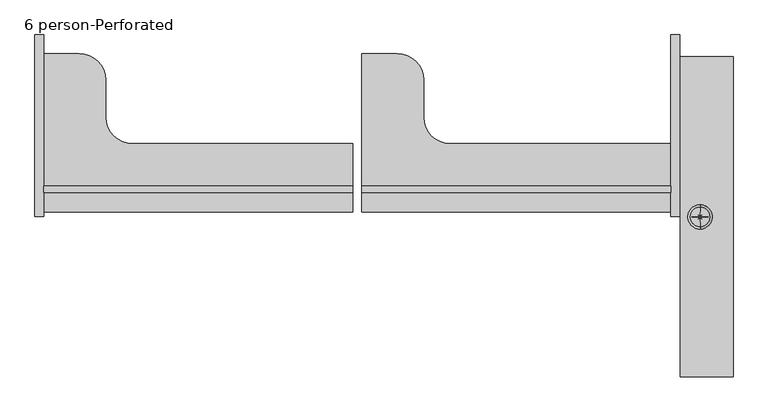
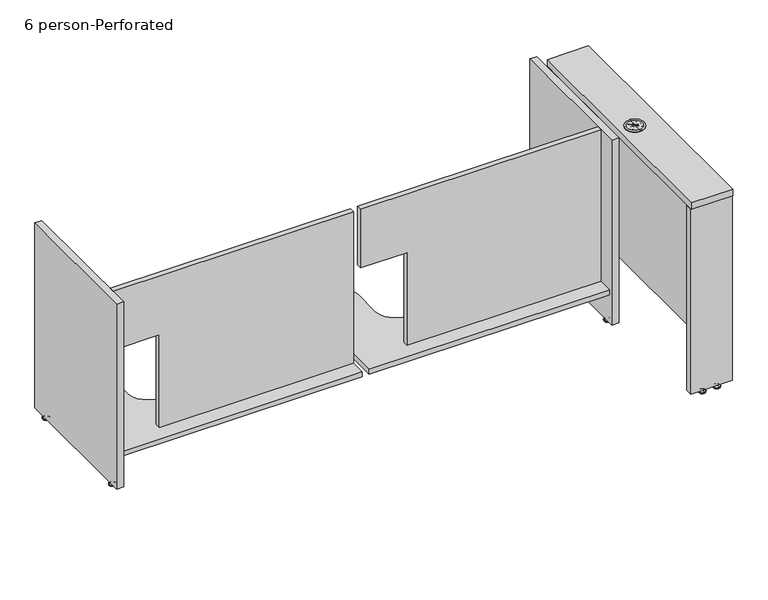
"""IFC4 building model written with IfcOpenShell, lengths in millimetres: furniture geometry, Nova Solutions - Collaboration Table - Keystone_6-7 person : 6 person-Perforated."""

from ifc_helpers import new_model, si_unit, point, frame, frame_2d, origin, place, context, project, spatial, polyline, circle_curve, ellipse_curve, trimmed, segment, composite_curve, outline, extrude, source, transform, mapped, element, save
from ifc_brep_helpers import plane_surface, cylinder_surface, revolved_surface, advanced_brep


def furniture_6_person_perforated_8f2a57f9(model_context):
    return source(origin(), model_context, "Body", "SolidModel", [
        advanced_brep(
        [(1440.9, -34.925, 762.0), (1440.9, 34.925, 762.0), (1440.9, 24.6435157, 762.0), (1439.753542, 2.7677944, 762.0), (1423.4744029, 17.4255971, 762.0), (1438.1322056, 1.146458, 762.0), (1416.2564843, 0.0, 762.0), (1438.1322056, -1.146458, 762.0), (1423.4744029, -17.4255971, 762.0), (1439.753542, -2.7677944, 762.0), (1440.9, -24.6435157, 762.0), (1442.046458, -2.7677944, 762.0), (1458.3255971, -17.4255971, 762.0), (1443.6677944, -1.146458, 762.0), (1465.5435157, 0.0, 762.0), (1443.6677944, 1.146458, 762.0), (1458.3255971, 17.4255971, 762.0), (1442.046458, 2.7677944, 762.0), (1440.9, -34.925, 763.3787817), (1440.9, 34.925, 763.3787817), (1440.9, -28.7119174, 765.175), (1440.9, 28.7119174, 765.175), (1440.9, -24.6435157, 765.175), (1439.753542, -2.7677944, 765.175), (1423.4744029, -17.4255971, 765.175), (1438.1322056, -1.146458, 765.175), (1416.2564843, 0.0, 765.175), (1438.1322056, 1.146458, 765.175), (1423.4744029, 17.4255971, 765.175), (1439.753542, 2.7677944, 765.175), (1440.9, 24.6435157, 765.175), (1442.046458, 2.7677944, 765.175), (1458.3255971, 17.4255971, 765.175), (1443.6677944, 1.146458, 765.175), (1465.5435157, 0.0, 765.175), (1443.6677944, -1.146458, 765.175), (1458.3255971, -17.4255971, 765.175), (1442.046458, -2.7677944, 765.175)],
        [
            (0, 1, circle_curve(frame((1440.9, 0.0, 762.0), z_axis=(0.0, 0.0, -1.0), x_axis=(0.0, 1.0, 0.0)), 34.925)),
            (1, 2),
            (2, 3),
            (3, 4),
            (4, 5),
            (5, 6),
            (6, 7),
            (7, 8),
            (8, 9),
            (9, 10),
            (10, 0),
            (1, 0, circle_curve(frame((1440.9, 0.0, 762.0), z_axis=(0.0, 0.0, -1.0), x_axis=(0.0, 1.0, 0.0)), 34.925)),
            (10, 11),
            (11, 12),
            (12, 13),
            (13, 14),
            (14, 15),
            (15, 16),
            (16, 17),
            (17, 2),
            (0, 18),
            (18, 19, circle_curve(frame((1440.9, 0.0, 763.3787817), z_axis=(0.0, 0.0, -1.0), x_axis=(0.0, 1.0, 0.0)), 34.925)),
            (19, 1),
            (19, 18, circle_curve(frame((1440.9, 0.0, 763.3787817), z_axis=(0.0, 0.0, -1.0), x_axis=(0.0, 1.0, 0.0)), 34.925)),
            (18, 20, circle_curve(frame((1440.9, -31.558813, 763.3787817), z_axis=(-1.0, 0.0, 0.0), x_axis=(0.0, -1.0, 0.0)), 3.366187)),
            (20, 21, circle_curve(frame((1440.9, 0.0, 765.175), z_axis=(0.0, 0.0, -1.0), x_axis=(0.0, 1.0, 0.0)), 28.7119174)),
            (21, 19, circle_curve(frame((1440.9, 31.558813, 763.3787817), z_axis=(-1.0, 0.0, 0.0), x_axis=(0.0, 1.0, 0.0)), 3.366187)),
            (21, 20, circle_curve(frame((1440.9, 0.0, 765.175), z_axis=(0.0, 0.0, -1.0), x_axis=(0.0, 1.0, 0.0)), 28.7119174)),
            (20, 22),
            (22, 23),
            (23, 24),
            (24, 25),
            (25, 26),
            (26, 27),
            (27, 28),
            (28, 29),
            (29, 30),
            (30, 21),
            (30, 31),
            (31, 32),
            (32, 33),
            (33, 34),
            (34, 35),
            (35, 36),
            (36, 37),
            (37, 22),
            (26, 6),
            (5, 27),
            (25, 7),
            (24, 8),
            (23, 9),
            (22, 10),
            (37, 11),
            (36, 12),
            (35, 13),
            (34, 14),
            (33, 15),
            (32, 16),
            (31, 17),
            (30, 2),
            (29, 3),
            (28, 4),
        ],
        [
            plane_surface(frame((1440.9, 0.0, 762.0), z_axis=(0.0, 0.0, -1.0), x_axis=(0.0, 1.0, 0.0))),
            cylinder_surface(frame((1440.9, 0.0, 850.9), z_axis=(0.0, 0.0, 1.0), x_axis=(0.0, 1.0, 0.0)), 34.925),
            revolved_surface(trimmed(ellipse_curve(frame((1440.9, 31.558813, 763.3787817), z_axis=(1.0, 0.0, 0.0), x_axis=(0.0, 1.0, 0.0)), 3.366187, 3.366187), [point((1440.9, 34.925, 763.3787817))], [point((1440.9, 28.7119174, 765.175))], True, "CARTESIAN"), (1440.9, 0.0, 850.9), (0.0, 0.0, 1.0)),
            plane_surface(frame((1440.9, 0.0, 765.175), z_axis=(0.0, 0.0, 1.0), x_axis=(0.0, 1.0, 0.0))),
            plane_surface(frame((1440.9, 1.2915119, 787.4), z_axis=(0.05233595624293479, -0.9986295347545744, 0.0), x_axis=(0.0, 0.0, -1.0))),
            plane_surface(frame((1416.2564843, 0.0, 787.4), z_axis=(0.052335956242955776, 0.9986295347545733, 0.0), x_axis=(0.0, 0.0, -1.0))),
            plane_surface(frame((1439.9867632, 0.9132368, 787.4), z_axis=(0.7431448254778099, -0.6691306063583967, 0.0), x_axis=(0.0, 0.0, -1.0))),
            plane_surface(frame((1423.4744029, -17.4255971, 787.4), z_axis=(-0.6691306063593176, 0.7431448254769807, 0.0), x_axis=(0.0, 0.0, -1.0))),
            plane_surface(frame((1439.6084881, 0.0, 787.4), z_axis=(0.9986295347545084, 0.05233595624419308, 0.0), x_axis=(0.0, 0.0, -1.0))),
            plane_surface(frame((1440.9, -24.6435157, 787.4), z_axis=(-0.9986295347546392, 0.05233595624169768, 0.0), x_axis=(0.0, 0.0, -1.0))),
            plane_surface(frame((1439.9867632, -0.9132368, 787.4), z_axis=(0.6691306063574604, 0.743144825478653, 0.0), x_axis=(0.0, 0.0, -1.0))),
            plane_surface(frame((1458.3255971, -17.4255971, 787.4), z_axis=(-0.7431448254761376, -0.669130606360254, 0.0), x_axis=(0.0, 0.0, -1.0))),
            plane_surface(frame((1440.9, -1.2915119, 787.4), z_axis=(-0.052335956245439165, 0.9986295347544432, 0.0), x_axis=(0.0, 0.0, -1.0))),
            plane_surface(frame((1465.5435157, 0.0, 787.4), z_axis=(-0.05233595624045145, -0.9986295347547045, 0.0), x_axis=(0.0, 0.0, -1.0))),
            plane_surface(frame((1441.8132368, -0.9132368, 787.4), z_axis=(-0.7431448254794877, 0.6691306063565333, 0.0), x_axis=(0.0, 0.0, -1.0))),
            plane_surface(frame((1458.3255971, 17.4255971, 787.4), z_axis=(0.669130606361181, -0.7431448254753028, 0.0), x_axis=(0.0, 0.0, -1.0))),
            plane_surface(frame((1442.1915119, 0.0, 787.4), z_axis=(-0.9986295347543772, -0.05233595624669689, 0.0), x_axis=(0.0, 0.0, -1.0))),
            plane_surface(frame((1440.9, 24.6435157, 787.4), z_axis=(0.9986295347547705, -0.05233595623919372, 0.0), x_axis=(0.0, 0.0, -1.0))),
            plane_surface(frame((1441.8132368, 0.9132368, 787.4), z_axis=(-0.6691306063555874, -0.7431448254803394, 0.0), x_axis=(0.0, 0.0, -1.0))),
            plane_surface(frame((1423.4744029, 17.4255971, 787.4), z_axis=(0.743144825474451, 0.669130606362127, 0.0), x_axis=(0.0, 0.0, -1.0))),
        ],
        [
            (0, [[1, 2, 3, 4, 5, 6, 7, 8, 9, 10, 11]]),
            (0, [[12, -11, 13, 14, 15, 16, 17, 18, 19, 20, -2]]),
            (1, [[-1, 21, 22, 23]]),
            (1, [[-12, -23, 24, -21]]),
            (2, [[-22, 25, 26, 27]]),
            (2, [[-24, -27, 28, -25]]),
            (3, [[-26, 29, 30, 31, 32, 33, 34, 35, 36, 37, 38]]),
            (3, [[-28, -38, 39, 40, 41, 42, 43, 44, 45, 46, -29]]),
            (4, [[47, -6, 48, -34]]),
            (5, [[-47, -33, 49, -7]]),
            (6, [[50, -8, -49, -32]]),
            (7, [[-50, -31, 51, -9]]),
            (8, [[52, -10, -51, -30]]),
            (9, [[-52, -46, 53, -13]]),
            (10, [[54, -14, -53, -45]]),
            (11, [[-54, -44, 55, -15]]),
            (12, [[56, -16, -55, -43]]),
            (13, [[-56, -42, 57, -17]]),
            (14, [[58, -18, -57, -41]]),
            (15, [[-58, -40, 59, -19]]),
            (16, [[60, -20, -59, -39]]),
            (17, [[-60, -37, 61, -3]]),
            (18, [[62, -4, -61, -36]]),
            (19, [[-62, -35, -48, -5]]),
        ],
    ),
        advanced_brep(
        [(1486.8859375, 451.0276506, 11.1125), (1486.8859375, 437.6723494, 11.1125), (1486.8859375, 444.35, 11.1125), (1486.8859375, 451.0276506, 9.525), (1486.8859375, 437.6723494, 9.525), (1486.8859375, 456.2355135, 4.7748687), (1486.8859375, 432.4644865, 4.7748687), (1486.8859375, 457.0966506, 3.989419), (1486.8859375, 431.6033494, 3.989419), (1486.8859375, 457.0966506, 3.175), (1486.8859375, 431.6033494, 3.175), (1486.8859375, 456.2459119, 0.0), (1486.8859375, 432.4540881, 0.0), (1486.8859375, 444.35, 0.0)],
        [
            (0, 1, circle_curve(frame((1486.8859375, 444.35, 11.1125), z_axis=(0.0, 0.0, 1.0), x_axis=(0.0, -1.0, 0.0)), 6.6776506)),
            (1, 2),
            (2, 0),
            (1, 0, circle_curve(frame((1486.8859375, 444.35, 11.1125), z_axis=(0.0, 0.0, 1.0), x_axis=(0.0, -1.0, 0.0)), 6.6776506)),
            (3, 4, circle_curve(frame((1486.8859375, 444.35, 9.525), z_axis=(0.0, 0.0, 1.0), x_axis=(0.0, -1.0, 0.0)), 6.6776506)),
            (4, 1),
            (0, 3),
            (4, 3, circle_curve(frame((1486.8859375, 444.35, 9.525), z_axis=(0.0, 0.0, 1.0), x_axis=(0.0, -1.0, 0.0)), 6.6776506)),
            (5, 6, circle_curve(frame((1486.8859375, 444.35, 4.7748687), z_axis=(0.0, 0.0, 1.0), x_axis=(0.0, -1.0, 0.0)), 11.8855135)),
            (6, 4, circle_curve(frame((1486.8859375, 431.4179373, 11.1521822), z_axis=(1.0, 0.0, 0.0), x_axis=(0.0, 1.0, 0.0)), 6.462615)),
            (3, 5, circle_curve(frame((1486.8859375, 457.2820627, 11.1521822), z_axis=(1.0, 0.0, 0.0), x_axis=(0.0, -1.0, 0.0)), 6.462615)),
            (6, 5, circle_curve(frame((1486.8859375, 444.35, 4.7748687), z_axis=(0.0, 0.0, 1.0), x_axis=(0.0, -1.0, 0.0)), 11.8855135)),
            (7, 8, circle_curve(frame((1486.8859375, 444.35, 3.989419), z_axis=(0.0, 0.0, 1.0), x_axis=(0.0, -1.0, 0.0)), 12.7466506)),
            (8, 6, circle_curve(frame((1486.8859375, 432.6375368, 3.7203591), z_axis=(-1.0, 0.0, 0.0), x_axis=(0.0, 1.0, 0.0)), 1.0686145)),
            (5, 7, circle_curve(frame((1486.8859375, 456.0624632, 3.7203591), z_axis=(-1.0, 0.0, 0.0), x_axis=(0.0, -1.0, 0.0)), 1.0686145)),
            (8, 7, circle_curve(frame((1486.8859375, 444.35, 3.989419), z_axis=(0.0, 0.0, 1.0), x_axis=(0.0, -1.0, 0.0)), 12.7466506)),
            (9, 10, circle_curve(frame((1486.8859375, 444.35, 3.175), z_axis=(0.0, 0.0, 1.0), x_axis=(0.0, -1.0, 0.0)), 12.7466506)),
            (10, 8),
            (7, 9),
            (10, 9, circle_curve(frame((1486.8859375, 444.35, 3.175), z_axis=(0.0, 0.0, 1.0), x_axis=(0.0, -1.0, 0.0)), 12.7466506)),
            (11, 12, circle_curve(frame((1486.8859375, 444.35, 0.0), z_axis=(0.0, 0.0, 1.0), x_axis=(0.0, -1.0, 0.0)), 11.8959119)),
            (12, 10),
            (9, 11),
            (12, 11, circle_curve(frame((1486.8859375, 444.35, 0.0), z_axis=(0.0, 0.0, 1.0), x_axis=(0.0, -1.0, 0.0)), 11.8959119)),
            (13, 12),
            (11, 13),
        ],
        [
            plane_surface(frame((1486.8859375, 444.35, 11.1125), z_axis=(0.0, 0.0, 1.0), x_axis=(0.0, -1.0, 0.0))),
            cylinder_surface(frame((1486.8859375, 444.35, 43.2095994), z_axis=(0.0, 0.0, -1.0), x_axis=(0.0, -1.0, 0.0)), 6.6776506),
            revolved_surface(trimmed(ellipse_curve(frame((1486.8859375, 431.4179373, 11.1521822), z_axis=(-1.0, 0.0, 0.0), x_axis=(0.0, 1.0, 0.0)), 6.462615, 6.462615), [point((1486.8859375, 437.6723494, 9.525))], [point((1486.8859375, 432.4644865, 4.7748687))], True, "CARTESIAN"), (1486.8859375, 444.35, 43.2095994), (0.0, 0.0, -1.0)),
            revolved_surface(trimmed(ellipse_curve(frame((1486.8859375, 432.6375368, 3.7203591), z_axis=(1.0, 0.0, 0.0), x_axis=(0.0, 1.0, 0.0)), 1.0686145, 1.0686145), [point((1486.8859375, 432.4644865, 4.7748687))], [point((1486.8859375, 431.6033494, 3.989419))], True, "CARTESIAN"), (1486.8859375, 444.35, 43.2095994), (0.0, 0.0, -1.0)),
            cylinder_surface(frame((1486.8859375, 444.35, 43.2095994), z_axis=(0.0, 0.0, -1.0), x_axis=(0.0, -1.0, 0.0)), 12.7466506),
            revolved_surface(polyline([(1486.8859375, 431.6033494, 3.175), (1486.8859375, 432.4540881, 0.0)]), (1486.8859375, 444.35, 43.2095994), (0.0, 0.0, -1.0)),
            plane_surface(frame((1486.8859375, 444.35, 0.0), z_axis=(0.0, 0.0, -1.0), x_axis=(0.0, -1.0, 0.0))),
        ],
        [
            (0, [[1, 2, 3]]),
            (0, [[4, -3, -2]]),
            (1, [[5, 6, -1, 7]]),
            (1, [[8, -7, -4, -6]]),
            (2, [[9, 10, -5, 11]]),
            (2, [[12, -11, -8, -10]]),
            (3, [[13, 14, -9, 15]]),
            (3, [[16, -15, -12, -14]]),
            (4, [[17, 18, -13, 19]]),
            (4, [[20, -19, -16, -18]]),
            (5, [[21, 22, -17, 23]]),
            (5, [[24, -23, -20, -22]]),
            (6, [[25, -21, 26]]),
            (6, [[-26, -24, -25]]),
        ],
    ),
        advanced_brep(
        [(1432.5140625, 451.0276506, 11.1125), (1432.5140625, 437.6723494, 11.1125), (1432.5140625, 444.35, 11.1125), (1432.5140625, 451.0276506, 9.525), (1432.5140625, 437.6723494, 9.525), (1432.5140625, 456.2355135, 4.7748687), (1432.5140625, 432.4644865, 4.7748687), (1432.5140625, 457.0966506, 3.989419), (1432.5140625, 431.6033494, 3.989419), (1432.5140625, 457.0966506, 3.175), (1432.5140625, 431.6033494, 3.175), (1432.5140625, 456.2459119, 0.0), (1432.5140625, 432.4540881, 0.0), (1432.5140625, 444.35, 0.0)],
        [
            (0, 1, circle_curve(frame((1432.5140625, 444.35, 11.1125), z_axis=(0.0, 0.0, 1.0), x_axis=(0.0, -1.0, 0.0)), 6.6776506)),
            (1, 2),
            (2, 0),
            (1, 0, circle_curve(frame((1432.5140625, 444.35, 11.1125), z_axis=(0.0, 0.0, 1.0), x_axis=(0.0, -1.0, 0.0)), 6.6776506)),
            (3, 4, circle_curve(frame((1432.5140625, 444.35, 9.525), z_axis=(0.0, 0.0, 1.0), x_axis=(0.0, -1.0, 0.0)), 6.6776506)),
            (4, 1),
            (0, 3),
            (4, 3, circle_curve(frame((1432.5140625, 444.35, 9.525), z_axis=(0.0, 0.0, 1.0), x_axis=(0.0, -1.0, 0.0)), 6.6776506)),
            (5, 6, circle_curve(frame((1432.5140625, 444.35, 4.7748687), z_axis=(0.0, 0.0, 1.0), x_axis=(0.0, -1.0, 0.0)), 11.8855135)),
            (6, 4, circle_curve(frame((1432.5140625, 431.4179373, 11.1521822), z_axis=(1.0, 0.0, 0.0), x_axis=(0.0, 1.0, 0.0)), 6.462615)),
            (3, 5, circle_curve(frame((1432.5140625, 457.2820627, 11.1521822), z_axis=(1.0, 0.0, 0.0), x_axis=(0.0, -1.0, 0.0)), 6.462615)),
            (6, 5, circle_curve(frame((1432.5140625, 444.35, 4.7748687), z_axis=(0.0, 0.0, 1.0), x_axis=(0.0, -1.0, 0.0)), 11.8855135)),
            (7, 8, circle_curve(frame((1432.5140625, 444.35, 3.989419), z_axis=(0.0, 0.0, 1.0), x_axis=(0.0, -1.0, 0.0)), 12.7466506)),
            (8, 6, circle_curve(frame((1432.5140625, 432.6375368, 3.7203591), z_axis=(-1.0, 0.0, 0.0), x_axis=(0.0, 1.0, 0.0)), 1.0686145)),
            (5, 7, circle_curve(frame((1432.5140625, 456.0624632, 3.7203591), z_axis=(-1.0, 0.0, 0.0), x_axis=(0.0, -1.0, 0.0)), 1.0686145)),
            (8, 7, circle_curve(frame((1432.5140625, 444.35, 3.989419), z_axis=(0.0, 0.0, 1.0), x_axis=(0.0, -1.0, 0.0)), 12.7466506)),
            (9, 10, circle_curve(frame((1432.5140625, 444.35, 3.175), z_axis=(0.0, 0.0, 1.0), x_axis=(0.0, -1.0, 0.0)), 12.7466506)),
            (10, 8),
            (7, 9),
            (10, 9, circle_curve(frame((1432.5140625, 444.35, 3.175), z_axis=(0.0, 0.0, 1.0), x_axis=(0.0, -1.0, 0.0)), 12.7466506)),
            (11, 12, circle_curve(frame((1432.5140625, 444.35, 0.0), z_axis=(0.0, 0.0, 1.0), x_axis=(0.0, -1.0, 0.0)), 11.8959119)),
            (12, 10),
            (9, 11),
            (12, 11, circle_curve(frame((1432.5140625, 444.35, 0.0), z_axis=(0.0, 0.0, 1.0), x_axis=(0.0, -1.0, 0.0)), 11.8959119)),
            (13, 12),
            (11, 13),
        ],
        [
            plane_surface(frame((1432.5140625, 444.35, 11.1125), z_axis=(0.0, 0.0, 1.0), x_axis=(0.0, -1.0, 0.0))),
            cylinder_surface(frame((1432.5140625, 444.35, 43.2095994), z_axis=(0.0, 0.0, -1.0), x_axis=(0.0, -1.0, 0.0)), 6.6776506),
            revolved_surface(trimmed(ellipse_curve(frame((1432.5140625, 431.4179373, 11.1521822), z_axis=(-1.0, 0.0, 0.0), x_axis=(0.0, 1.0, 0.0)), 6.462615, 6.462615), [point((1432.5140625, 437.6723494, 9.525))], [point((1432.5140625, 432.4644865, 4.7748687))], True, "CARTESIAN"), (1432.5140625, 444.35, 43.2095994), (0.0, 0.0, -1.0)),
            revolved_surface(trimmed(ellipse_curve(frame((1432.5140625, 432.6375368, 3.7203591), z_axis=(1.0, 0.0, 0.0), x_axis=(0.0, 1.0, 0.0)), 1.0686145, 1.0686145), [point((1432.5140625, 432.4644865, 4.7748687))], [point((1432.5140625, 431.6033494, 3.989419))], True, "CARTESIAN"), (1432.5140625, 444.35, 43.2095994), (0.0, 0.0, -1.0)),
            cylinder_surface(frame((1432.5140625, 444.35, 43.2095994), z_axis=(0.0, 0.0, -1.0), x_axis=(0.0, -1.0, 0.0)), 12.7466506),
            revolved_surface(polyline([(1432.5140625, 431.6033494, 3.175), (1432.5140625, 432.4540881, 0.0)]), (1432.5140625, 444.35, 43.2095994), (0.0, 0.0, -1.0)),
            plane_surface(frame((1432.5140625, 444.35, 0.0), z_axis=(0.0, 0.0, -1.0), x_axis=(0.0, -1.0, 0.0))),
        ],
        [
            (0, [[1, 2, 3]]),
            (0, [[4, -3, -2]]),
            (1, [[5, 6, -1, 7]]),
            (1, [[8, -7, -4, -6]]),
            (2, [[9, 10, -5, 11]]),
            (2, [[12, -11, -8, -10]]),
            (3, [[13, 14, -9, 15]]),
            (3, [[16, -15, -12, -14]]),
            (4, [[17, 18, -13, 19]]),
            (4, [[20, -19, -16, -18]]),
            (5, [[21, 22, -17, 23]]),
            (5, [[24, -23, -20, -22]]),
            (6, [[25, -21, 26]]),
            (6, [[-26, -24, -25]]),
        ],
    ),
        extrude(outline(polyline([(1383.5, 457.2), (1535.9, 457.2), (1535.9, 431.5), (1383.5, 431.5), (1383.5, 457.2)])), frame((0.0, 0.0, 15.6), z_axis=(0.0, 0.0, 1.0), x_axis=(1.0, 0.0, 0.0)), (0.0, 0.0, 1.0), 720.7),
        advanced_brep(
        [(1486.8859375, -451.0276506, 11.1125), (1486.8859375, -444.35, 11.1125), (1486.8859375, -437.6723494, 11.1125), (1486.8859375, -451.0276506, 9.525), (1486.8859375, -437.6723494, 9.525), (1486.8859375, -456.2355135, 4.7748687), (1486.8859375, -432.4644865, 4.7748687), (1486.8859375, -457.0966506, 3.989419), (1486.8859375, -431.6033494, 3.989419), (1486.8859375, -457.0966506, 3.175), (1486.8859375, -431.6033494, 3.175), (1486.8859375, -456.2459119, 0.0), (1486.8859375, -432.4540881, 0.0), (1486.8859375, -444.35, 0.0)],
        [
            (0, 1),
            (1, 2),
            (2, 0, circle_curve(frame((1486.8859375, -444.35, 11.1125), z_axis=(0.0, 0.0, 1.0), x_axis=(0.0, 1.0, 0.0)), 6.6776506)),
            (0, 2, circle_curve(frame((1486.8859375, -444.35, 11.1125), z_axis=(0.0, 0.0, 1.0), x_axis=(0.0, 1.0, 0.0)), 6.6776506)),
            (3, 0),
            (2, 4),
            (4, 3, circle_curve(frame((1486.8859375, -444.35, 9.525), z_axis=(0.0, 0.0, 1.0), x_axis=(0.0, 1.0, 0.0)), 6.6776506)),
            (3, 4, circle_curve(frame((1486.8859375, -444.35, 9.525), z_axis=(0.0, 0.0, 1.0), x_axis=(0.0, 1.0, 0.0)), 6.6776506)),
            (5, 3, circle_curve(frame((1486.8859375, -457.2820627, 11.1521822), z_axis=(1.0, 0.0, 0.0), x_axis=(0.0, 1.0, 0.0)), 6.462615)),
            (4, 6, circle_curve(frame((1486.8859375, -431.4179373, 11.1521822), z_axis=(1.0, 0.0, 0.0), x_axis=(0.0, -1.0, 0.0)), 6.462615)),
            (6, 5, circle_curve(frame((1486.8859375, -444.35, 4.7748687), z_axis=(0.0, 0.0, 1.0), x_axis=(0.0, 1.0, 0.0)), 11.8855135)),
            (5, 6, circle_curve(frame((1486.8859375, -444.35, 4.7748687), z_axis=(0.0, 0.0, 1.0), x_axis=(0.0, 1.0, 0.0)), 11.8855135)),
            (7, 5, circle_curve(frame((1486.8859375, -456.0624632, 3.7203591), z_axis=(-1.0, 0.0, 0.0), x_axis=(0.0, 1.0, 0.0)), 1.0686145)),
            (6, 8, circle_curve(frame((1486.8859375, -432.6375368, 3.7203591), z_axis=(-1.0, 0.0, 0.0), x_axis=(0.0, -1.0, 0.0)), 1.0686145)),
            (8, 7, circle_curve(frame((1486.8859375, -444.35, 3.989419), z_axis=(0.0, 0.0, 1.0), x_axis=(0.0, 1.0, 0.0)), 12.7466506)),
            (7, 8, circle_curve(frame((1486.8859375, -444.35, 3.989419), z_axis=(0.0, 0.0, 1.0), x_axis=(0.0, 1.0, 0.0)), 12.7466506)),
            (9, 7),
            (8, 10),
            (10, 9, circle_curve(frame((1486.8859375, -444.35, 3.175), z_axis=(0.0, 0.0, 1.0), x_axis=(0.0, 1.0, 0.0)), 12.7466506)),
            (9, 10, circle_curve(frame((1486.8859375, -444.35, 3.175), z_axis=(0.0, 0.0, 1.0), x_axis=(0.0, 1.0, 0.0)), 12.7466506)),
            (11, 9),
            (10, 12),
            (12, 11, circle_curve(frame((1486.8859375, -444.35, 0.0), z_axis=(0.0, 0.0, 1.0), x_axis=(0.0, 1.0, 0.0)), 11.8959119)),
            (11, 12, circle_curve(frame((1486.8859375, -444.35, 0.0), z_axis=(0.0, 0.0, 1.0), x_axis=(0.0, 1.0, 0.0)), 11.8959119)),
            (13, 11),
            (12, 13),
        ],
        [
            plane_surface(frame((1486.8859375, -444.35, 11.1125), z_axis=(0.0, 0.0, 1.0), x_axis=(0.0, 1.0, 0.0))),
            cylinder_surface(frame((1486.8859375, -444.35, 43.2095994), z_axis=(0.0, 0.0, -1.0), x_axis=(0.0, 1.0, 0.0)), 6.6776506),
            revolved_surface(trimmed(ellipse_curve(frame((1486.8859375, -431.4179373, 11.1521822), z_axis=(1.0, 0.0, 0.0), x_axis=(0.0, -1.0, 0.0)), 6.462615, 6.462615), [point((1486.8859375, -437.6723494, 9.525))], [point((1486.8859375, -432.4644865, 4.7748687))], True, "CARTESIAN"), (1486.8859375, -444.35, 43.2095994), (0.0, 0.0, -1.0)),
            revolved_surface(trimmed(ellipse_curve(frame((1486.8859375, -432.6375368, 3.7203591), z_axis=(-1.0, 0.0, 0.0), x_axis=(0.0, -1.0, 0.0)), 1.0686145, 1.0686145), [point((1486.8859375, -432.4644865, 4.7748687))], [point((1486.8859375, -431.6033494, 3.989419))], True, "CARTESIAN"), (1486.8859375, -444.35, 43.2095994), (0.0, 0.0, -1.0)),
            cylinder_surface(frame((1486.8859375, -444.35, 43.2095994), z_axis=(0.0, 0.0, -1.0), x_axis=(0.0, 1.0, 0.0)), 12.7466506),
            revolved_surface(polyline([(1486.8859375, -431.6033494, 3.175), (1486.8859375, -432.4540881, 0.0)]), (1486.8859375, -444.35, 43.2095994), (0.0, 0.0, -1.0)),
            plane_surface(frame((1486.8859375, -444.35, 0.0), z_axis=(0.0, 0.0, -1.0), x_axis=(0.0, 1.0, 0.0))),
        ],
        [
            (0, [[1, 2, 3]]),
            (0, [[-2, -1, 4]]),
            (1, [[5, -3, 6, 7]]),
            (1, [[-6, -4, -5, 8]]),
            (2, [[9, -7, 10, 11]]),
            (2, [[-10, -8, -9, 12]]),
            (3, [[13, -11, 14, 15]]),
            (3, [[-14, -12, -13, 16]]),
            (4, [[17, -15, 18, 19]]),
            (4, [[-18, -16, -17, 20]]),
            (5, [[21, -19, 22, 23]]),
            (5, [[-22, -20, -21, 24]]),
            (6, [[25, -23, 26]]),
            (6, [[-26, -24, -25]]),
        ],
    ),
        advanced_brep(
        [(1432.5140625, -451.0276506, 11.1125), (1432.5140625, -444.35, 11.1125), (1432.5140625, -437.6723494, 11.1125), (1432.5140625, -451.0276506, 9.525), (1432.5140625, -437.6723494, 9.525), (1432.5140625, -456.2355135, 4.7748687), (1432.5140625, -432.4644865, 4.7748687), (1432.5140625, -457.0966506, 3.989419), (1432.5140625, -431.6033494, 3.989419), (1432.5140625, -457.0966506, 3.175), (1432.5140625, -431.6033494, 3.175), (1432.5140625, -456.2459119, 0.0), (1432.5140625, -432.4540881, 0.0), (1432.5140625, -444.35, 0.0)],
        [
            (0, 1),
            (1, 2),
            (2, 0, circle_curve(frame((1432.5140625, -444.35, 11.1125), z_axis=(0.0, 0.0, 1.0), x_axis=(0.0, 1.0, 0.0)), 6.6776506)),
            (0, 2, circle_curve(frame((1432.5140625, -444.35, 11.1125), z_axis=(0.0, 0.0, 1.0), x_axis=(0.0, 1.0, 0.0)), 6.6776506)),
            (3, 0),
            (2, 4),
            (4, 3, circle_curve(frame((1432.5140625, -444.35, 9.525), z_axis=(0.0, 0.0, 1.0), x_axis=(0.0, 1.0, 0.0)), 6.6776506)),
            (3, 4, circle_curve(frame((1432.5140625, -444.35, 9.525), z_axis=(0.0, 0.0, 1.0), x_axis=(0.0, 1.0, 0.0)), 6.6776506)),
            (5, 3, circle_curve(frame((1432.5140625, -457.2820627, 11.1521822), z_axis=(1.0, 0.0, 0.0), x_axis=(0.0, 1.0, 0.0)), 6.462615)),
            (4, 6, circle_curve(frame((1432.5140625, -431.4179373, 11.1521822), z_axis=(1.0, 0.0, 0.0), x_axis=(0.0, -1.0, 0.0)), 6.462615)),
            (6, 5, circle_curve(frame((1432.5140625, -444.35, 4.7748687), z_axis=(0.0, 0.0, 1.0), x_axis=(0.0, 1.0, 0.0)), 11.8855135)),
            (5, 6, circle_curve(frame((1432.5140625, -444.35, 4.7748687), z_axis=(0.0, 0.0, 1.0), x_axis=(0.0, 1.0, 0.0)), 11.8855135)),
            (7, 5, circle_curve(frame((1432.5140625, -456.0624632, 3.7203591), z_axis=(-1.0, 0.0, 0.0), x_axis=(0.0, 1.0, 0.0)), 1.0686145)),
            (6, 8, circle_curve(frame((1432.5140625, -432.6375368, 3.7203591), z_axis=(-1.0, 0.0, 0.0), x_axis=(0.0, -1.0, 0.0)), 1.0686145)),
            (8, 7, circle_curve(frame((1432.5140625, -444.35, 3.989419), z_axis=(0.0, 0.0, 1.0), x_axis=(0.0, 1.0, 0.0)), 12.7466506)),
            (7, 8, circle_curve(frame((1432.5140625, -444.35, 3.989419), z_axis=(0.0, 0.0, 1.0), x_axis=(0.0, 1.0, 0.0)), 12.7466506)),
            (9, 7),
            (8, 10),
            (10, 9, circle_curve(frame((1432.5140625, -444.35, 3.175), z_axis=(0.0, 0.0, 1.0), x_axis=(0.0, 1.0, 0.0)), 12.7466506)),
            (9, 10, circle_curve(frame((1432.5140625, -444.35, 3.175), z_axis=(0.0, 0.0, 1.0), x_axis=(0.0, 1.0, 0.0)), 12.7466506)),
            (11, 9),
            (10, 12),
            (12, 11, circle_curve(frame((1432.5140625, -444.35, 0.0), z_axis=(0.0, 0.0, 1.0), x_axis=(0.0, 1.0, 0.0)), 11.8959119)),
            (11, 12, circle_curve(frame((1432.5140625, -444.35, 0.0), z_axis=(0.0, 0.0, 1.0), x_axis=(0.0, 1.0, 0.0)), 11.8959119)),
            (13, 11),
            (12, 13),
        ],
        [
            plane_surface(frame((1432.5140625, -444.35, 11.1125), z_axis=(0.0, 0.0, 1.0), x_axis=(0.0, 1.0, 0.0))),
            cylinder_surface(frame((1432.5140625, -444.35, 43.2095994), z_axis=(0.0, 0.0, -1.0), x_axis=(0.0, 1.0, 0.0)), 6.6776506),
            revolved_surface(trimmed(ellipse_curve(frame((1432.5140625, -431.4179373, 11.1521822), z_axis=(1.0, 0.0, 0.0), x_axis=(0.0, -1.0, 0.0)), 6.462615, 6.462615), [point((1432.5140625, -437.6723494, 9.525))], [point((1432.5140625, -432.4644865, 4.7748687))], True, "CARTESIAN"), (1432.5140625, -444.35, 43.2095994), (0.0, 0.0, -1.0)),
            revolved_surface(trimmed(ellipse_curve(frame((1432.5140625, -432.6375368, 3.7203591), z_axis=(-1.0, 0.0, 0.0), x_axis=(0.0, -1.0, 0.0)), 1.0686145, 1.0686145), [point((1432.5140625, -432.4644865, 4.7748687))], [point((1432.5140625, -431.6033494, 3.989419))], True, "CARTESIAN"), (1432.5140625, -444.35, 43.2095994), (0.0, 0.0, -1.0)),
            cylinder_surface(frame((1432.5140625, -444.35, 43.2095994), z_axis=(0.0, 0.0, -1.0), x_axis=(0.0, 1.0, 0.0)), 12.7466506),
            revolved_surface(polyline([(1432.5140625, -431.6033494, 3.175), (1432.5140625, -432.4540881, 0.0)]), (1432.5140625, -444.35, 43.2095994), (0.0, 0.0, -1.0)),
            plane_surface(frame((1432.5140625, -444.35, 0.0), z_axis=(0.0, 0.0, -1.0), x_axis=(0.0, 1.0, 0.0))),
        ],
        [
            (0, [[1, 2, 3]]),
            (0, [[-2, -1, 4]]),
            (1, [[5, -3, 6, 7]]),
            (1, [[-6, -4, -5, 8]]),
            (2, [[9, -7, 10, 11]]),
            (2, [[-10, -8, -9, 12]]),
            (3, [[13, -11, 14, 15]]),
            (3, [[-14, -12, -13, 16]]),
            (4, [[17, -15, 18, 19]]),
            (4, [[-18, -16, -17, 20]]),
            (5, [[21, -19, 22, 23]]),
            (5, [[-22, -20, -21, 24]]),
            (6, [[25, -23, 26]]),
            (6, [[-26, -24, -25]]),
        ],
    ),
        extrude(outline(polyline([(1383.5, -457.2), (1383.5, -431.5), (1535.9, -431.5), (1535.9, -457.2), (1383.5, -457.2)])), frame((0.0, 0.0, 15.6), z_axis=(0.0, 0.0, 1.0), x_axis=(1.0, 0.0, 0.0)), (0.0, 0.0, 1.0), 720.7),
        extrude(outline(polyline([(1535.32, -431.0), (1516.27, -431.0), (1516.27, 431.0), (1535.32, 431.0), (1535.32, -431.0)])), frame((0.0, 0.0, 85.615), z_axis=(0.0, 0.0, 1.0), x_axis=(1.0, 0.0, 0.0)), (0.0, 0.0, 1.0), 625.285),
        extrude(outline(polyline([(1535.9, 460.1), (1535.9, -460.1), (1383.5, -460.1), (1383.5, 460.1), (1535.9, 460.1)])), frame((0.0, 0.0, 736.3), z_axis=(0.0, 0.0, 1.0), x_axis=(1.0, 0.0, 0.0)), (0.0, 0.0, 1.0), 25.7),
        extrude(outline(polyline([(145.5, 1356.4), (736.3, 1356.4), (736.3, 469.3), (507.4, 469.3), (507.4, 640.3), (145.5, 640.3), (145.5, 1356.4)])), frame((0.0, 69.345, 0.0), z_axis=(0.0, 1.0, 0.0), x_axis=(0.0, 0.0, 1.0)), (0.0, 0.0, 1.0), 19.2),
        extrude(outline(composite_curve([segment(polyline([(1356.4, 14.045), (469.3, 14.045), (469.3, 469.9075), (570.9, 469.9075)]), True, "CONTINUOUS"), segment(trimmed(circle_curve(frame_2d((570.9, 393.7075)), 76.2), [point((570.9, 469.9075))], [point((647.1, 393.7075))], False, "CARTESIAN"), True, "CONTINUOUS"), segment(polyline([(647.1, 393.7075), (647.1, 286.545)]), True, "CONTINUOUS"), segment(trimmed(circle_curve(frame_2d((723.3, 286.545)), 76.2), [point((647.1, 286.545))], [point((723.3, 210.345))], True, "CARTESIAN"), True, "CONTINUOUS"), segment(polyline([(723.3, 210.345), (1356.4, 210.345), (1356.4, 14.045)]), True, "CONTINUOUS")], self_intersect=False)), frame((0.0, 0.0, 126.3), z_axis=(0.0, 0.0, 1.0), x_axis=(1.0, 0.0, 0.0)), (0.0, 0.0, 1.0), 19.2),
        advanced_brep(
        [(1375.9276506, 474.3309375, 11.1125), (1369.25, 474.3309375, 11.1125), (1362.5723494, 474.3309375, 11.1125), (1375.9276506, 474.3309375, 9.525), (1362.5723494, 474.3309375, 9.525), (1381.1355135, 474.3309375, 4.7748687), (1357.3644865, 474.3309375, 4.7748687), (1381.9966506, 474.3309375, 3.989419), (1356.5033494, 474.3309375, 3.989419), (1381.9966506, 474.3309375, 3.175), (1356.5033494, 474.3309375, 3.175), (1381.1459119, 474.3309375, 0.0), (1357.3540881, 474.3309375, 0.0), (1369.25, 474.3309375, 0.0)],
        [
            (0, 1),
            (1, 2),
            (2, 0, circle_curve(frame((1369.25, 474.3309375, 11.1125), z_axis=(0.0, 0.0, 1.0), x_axis=(-1.0, 0.0, 0.0)), 6.6776506)),
            (0, 2, circle_curve(frame((1369.25, 474.3309375, 11.1125), z_axis=(0.0, 0.0, 1.0), x_axis=(-1.0, 0.0, 0.0)), 6.6776506)),
            (3, 0),
            (2, 4),
            (4, 3, circle_curve(frame((1369.25, 474.3309375, 9.525), z_axis=(0.0, 0.0, 1.0), x_axis=(-1.0, 0.0, 0.0)), 6.6776506)),
            (3, 4, circle_curve(frame((1369.25, 474.3309375, 9.525), z_axis=(0.0, 0.0, 1.0), x_axis=(-1.0, 0.0, 0.0)), 6.6776506)),
            (5, 3, circle_curve(frame((1382.1820627, 474.3309375, 11.1521822), z_axis=(0.0, 1.0, 0.0), x_axis=(-1.0, 0.0, 0.0)), 6.462615)),
            (4, 6, circle_curve(frame((1356.3179373, 474.3309375, 11.1521822), z_axis=(0.0, 1.0, 0.0), x_axis=(1.0, 0.0, 0.0)), 6.462615)),
            (6, 5, circle_curve(frame((1369.25, 474.3309375, 4.7748687), z_axis=(0.0, 0.0, 1.0), x_axis=(-1.0, 0.0, 0.0)), 11.8855135)),
            (5, 6, circle_curve(frame((1369.25, 474.3309375, 4.7748687), z_axis=(0.0, 0.0, 1.0), x_axis=(-1.0, 0.0, 0.0)), 11.8855135)),
            (7, 5, circle_curve(frame((1380.9624632, 474.3309375, 3.7203591), z_axis=(0.0, -1.0, 0.0), x_axis=(-1.0, 0.0, 0.0)), 1.0686145)),
            (6, 8, circle_curve(frame((1357.5375368, 474.3309375, 3.7203591), z_axis=(0.0, -1.0, 0.0), x_axis=(1.0, 0.0, 0.0)), 1.0686145)),
            (8, 7, circle_curve(frame((1369.25, 474.3309375, 3.989419), z_axis=(0.0, 0.0, 1.0), x_axis=(-1.0, 0.0, 0.0)), 12.7466506)),
            (7, 8, circle_curve(frame((1369.25, 474.3309375, 3.989419), z_axis=(0.0, 0.0, 1.0), x_axis=(-1.0, 0.0, 0.0)), 12.7466506)),
            (9, 7),
            (8, 10),
            (10, 9, circle_curve(frame((1369.25, 474.3309375, 3.175), z_axis=(0.0, 0.0, 1.0), x_axis=(-1.0, 0.0, 0.0)), 12.7466506)),
            (9, 10, circle_curve(frame((1369.25, 474.3309375, 3.175), z_axis=(0.0, 0.0, 1.0), x_axis=(-1.0, 0.0, 0.0)), 12.7466506)),
            (11, 9),
            (10, 12),
            (12, 11, circle_curve(frame((1369.25, 474.3309375, 0.0), z_axis=(0.0, 0.0, 1.0), x_axis=(-1.0, 0.0, 0.0)), 11.8959119)),
            (11, 12, circle_curve(frame((1369.25, 474.3309375, 0.0), z_axis=(0.0, 0.0, 1.0), x_axis=(-1.0, 0.0, 0.0)), 11.8959119)),
            (13, 11),
            (12, 13),
        ],
        [
            plane_surface(frame((1369.25, 474.3309375, 11.1125), z_axis=(0.0, 0.0, 1.0), x_axis=(-1.0, 0.0, 0.0))),
            cylinder_surface(frame((1369.25, 474.3309375, 43.2095994), z_axis=(0.0, 0.0, -1.0), x_axis=(-1.0, 0.0, 0.0)), 6.6776506),
            revolved_surface(trimmed(ellipse_curve(frame((1356.3179373, 474.3309375, 11.1521822), z_axis=(0.0, 1.0, 0.0), x_axis=(1.0, 0.0, 0.0)), 6.462615, 6.462615), [point((1362.5723494, 474.3309375, 9.525))], [point((1357.3644865, 474.3309375, 4.7748687))], True, "CARTESIAN"), (1369.25, 474.3309375, 43.2095994), (0.0, 0.0, -1.0)),
            revolved_surface(trimmed(ellipse_curve(frame((1357.5375368, 474.3309375, 3.7203591), z_axis=(0.0, -1.0, 0.0), x_axis=(1.0, 0.0, 0.0)), 1.0686145, 1.0686145), [point((1357.3644865, 474.3309375, 4.7748687))], [point((1356.5033494, 474.3309375, 3.989419))], True, "CARTESIAN"), (1369.25, 474.3309375, 43.2095994), (0.0, 0.0, -1.0)),
            cylinder_surface(frame((1369.25, 474.3309375, 43.2095994), z_axis=(0.0, 0.0, -1.0), x_axis=(-1.0, 0.0, 0.0)), 12.7466506),
            revolved_surface(polyline([(1356.5033494, 474.3309375, 3.175), (1357.3540881, 474.3309375, 0.0)]), (1369.25, 474.3309375, 43.2095994), (0.0, 0.0, -1.0)),
            plane_surface(frame((1369.25, 474.3309375, 0.0), z_axis=(0.0, 0.0, -1.0), x_axis=(-1.0, 0.0, 0.0))),
        ],
        [
            (0, [[1, 2, 3]]),
            (0, [[-2, -1, 4]]),
            (1, [[5, -3, 6, 7]]),
            (1, [[-6, -4, -5, 8]]),
            (2, [[9, -7, 10, 11]]),
            (2, [[-10, -8, -9, 12]]),
            (3, [[13, -11, 14, 15]]),
            (3, [[-14, -12, -13, 16]]),
            (4, [[17, -15, 18, 19]]),
            (4, [[-18, -16, -17, 20]]),
            (5, [[21, -19, 22, 23]]),
            (5, [[-22, -20, -21, 24]]),
            (6, [[25, -23, 26]]),
            (6, [[-26, -24, -25]]),
        ],
    ),
        advanced_brep(
        [(1375.9276506, 50.3590625, 11.1125), (1369.25, 50.3590625, 11.1125), (1362.5723494, 50.3590625, 11.1125), (1375.9276506, 50.3590625, 9.525), (1362.5723494, 50.3590625, 9.525), (1381.1355135, 50.3590625, 4.7748687), (1357.3644865, 50.3590625, 4.7748687), (1381.9966506, 50.3590625, 3.989419), (1356.5033494, 50.3590625, 3.989419), (1381.9966506, 50.3590625, 3.175), (1356.5033494, 50.3590625, 3.175), (1381.1459119, 50.3590625, 0.0), (1357.3540881, 50.3590625, 0.0), (1369.25, 50.3590625, 0.0)],
        [
            (0, 1),
            (1, 2),
            (2, 0, circle_curve(frame((1369.25, 50.3590625, 11.1125), z_axis=(0.0, 0.0, 1.0), x_axis=(-1.0, 0.0, 0.0)), 6.6776506)),
            (0, 2, circle_curve(frame((1369.25, 50.3590625, 11.1125), z_axis=(0.0, 0.0, 1.0), x_axis=(-1.0, 0.0, 0.0)), 6.6776506)),
            (3, 0),
            (2, 4),
            (4, 3, circle_curve(frame((1369.25, 50.3590625, 9.525), z_axis=(0.0, 0.0, 1.0), x_axis=(-1.0, 0.0, 0.0)), 6.6776506)),
            (3, 4, circle_curve(frame((1369.25, 50.3590625, 9.525), z_axis=(0.0, 0.0, 1.0), x_axis=(-1.0, 0.0, 0.0)), 6.6776506)),
            (5, 3, circle_curve(frame((1382.1820627, 50.3590625, 11.1521822), z_axis=(0.0, 1.0, 0.0), x_axis=(-1.0, 0.0, 0.0)), 6.462615)),
            (4, 6, circle_curve(frame((1356.3179373, 50.3590625, 11.1521822), z_axis=(0.0, 1.0, 0.0), x_axis=(1.0, 0.0, 0.0)), 6.462615)),
            (6, 5, circle_curve(frame((1369.25, 50.3590625, 4.7748687), z_axis=(0.0, 0.0, 1.0), x_axis=(-1.0, 0.0, 0.0)), 11.8855135)),
            (5, 6, circle_curve(frame((1369.25, 50.3590625, 4.7748687), z_axis=(0.0, 0.0, 1.0), x_axis=(-1.0, 0.0, 0.0)), 11.8855135)),
            (7, 5, circle_curve(frame((1380.9624632, 50.3590625, 3.7203591), z_axis=(0.0, -1.0, 0.0), x_axis=(-1.0, 0.0, 0.0)), 1.0686145)),
            (6, 8, circle_curve(frame((1357.5375368, 50.3590625, 3.7203591), z_axis=(0.0, -1.0, 0.0), x_axis=(1.0, 0.0, 0.0)), 1.0686145)),
            (8, 7, circle_curve(frame((1369.25, 50.3590625, 3.989419), z_axis=(0.0, 0.0, 1.0), x_axis=(-1.0, 0.0, 0.0)), 12.7466506)),
            (7, 8, circle_curve(frame((1369.25, 50.3590625, 3.989419), z_axis=(0.0, 0.0, 1.0), x_axis=(-1.0, 0.0, 0.0)), 12.7466506)),
            (9, 7),
            (8, 10),
            (10, 9, circle_curve(frame((1369.25, 50.3590625, 3.175), z_axis=(0.0, 0.0, 1.0), x_axis=(-1.0, 0.0, 0.0)), 12.7466506)),
            (9, 10, circle_curve(frame((1369.25, 50.3590625, 3.175), z_axis=(0.0, 0.0, 1.0), x_axis=(-1.0, 0.0, 0.0)), 12.7466506)),
            (11, 9),
            (10, 12),
            (12, 11, circle_curve(frame((1369.25, 50.3590625, 0.0), z_axis=(0.0, 0.0, 1.0), x_axis=(-1.0, 0.0, 0.0)), 11.8959119)),
            (11, 12, circle_curve(frame((1369.25, 50.3590625, 0.0), z_axis=(0.0, 0.0, 1.0), x_axis=(-1.0, 0.0, 0.0)), 11.8959119)),
            (13, 11),
            (12, 13),
        ],
        [
            plane_surface(frame((1369.25, 50.3590625, 11.1125), z_axis=(0.0, 0.0, 1.0), x_axis=(-1.0, 0.0, 0.0))),
            cylinder_surface(frame((1369.25, 50.3590625, 43.2095994), z_axis=(0.0, 0.0, -1.0), x_axis=(-1.0, 0.0, 0.0)), 6.6776506),
            revolved_surface(trimmed(ellipse_curve(frame((1356.3179373, 50.3590625, 11.1521822), z_axis=(0.0, 1.0, 0.0), x_axis=(1.0, 0.0, 0.0)), 6.462615, 6.462615), [point((1362.5723494, 50.3590625, 9.525))], [point((1357.3644865, 50.3590625, 4.7748687))], True, "CARTESIAN"), (1369.25, 50.3590625, 43.2095994), (0.0, 0.0, -1.0)),
            revolved_surface(trimmed(ellipse_curve(frame((1357.5375368, 50.3590625, 3.7203591), z_axis=(0.0, -1.0, 0.0), x_axis=(1.0, 0.0, 0.0)), 1.0686145, 1.0686145), [point((1357.3644865, 50.3590625, 4.7748687))], [point((1356.5033494, 50.3590625, 3.989419))], True, "CARTESIAN"), (1369.25, 50.3590625, 43.2095994), (0.0, 0.0, -1.0)),
            cylinder_surface(frame((1369.25, 50.3590625, 43.2095994), z_axis=(0.0, 0.0, -1.0), x_axis=(-1.0, 0.0, 0.0)), 12.7466506),
            revolved_surface(polyline([(1356.5033494, 50.3590625, 3.175), (1357.3540881, 50.3590625, 0.0)]), (1369.25, 50.3590625, 43.2095994), (0.0, 0.0, -1.0)),
            plane_surface(frame((1369.25, 50.3590625, 0.0), z_axis=(0.0, 0.0, -1.0), x_axis=(-1.0, 0.0, 0.0))),
        ],
        [
            (0, [[1, 2, 3]]),
            (0, [[-2, -1, 4]]),
            (1, [[5, -3, 6, 7]]),
            (1, [[-6, -4, -5, 8]]),
            (2, [[9, -7, 10, 11]]),
            (2, [[-10, -8, -9, 12]]),
            (3, [[13, -11, 14, 15]]),
            (3, [[-14, -12, -13, 16]]),
            (4, [[17, -15, 18, 19]]),
            (4, [[-18, -16, -17, 20]]),
            (5, [[21, -19, 22, 23]]),
            (5, [[-22, -20, -21, 24]]),
            (6, [[25, -23, 26]]),
            (6, [[-26, -24, -25]]),
        ],
    ),
        extrude(outline(polyline([(1382.1, 1.345), (1356.4, 1.345), (1356.4, 523.345), (1382.1, 523.345), (1382.1, 1.345)])), frame((0.0, 0.0, 15.6), z_axis=(0.0, 0.0, 1.0), x_axis=(1.0, 0.0, 0.0)), (0.0, 0.0, 1.0), 720.7),
        extrude(outline(polyline([(736.3, 443.6), (736.3, -443.6), (507.4, -443.6), (507.4, -272.6), (145.5, -272.6), (145.5, 443.6), (736.3, 443.6)])), frame((0.0, 69.345, 0.0), z_axis=(0.0, 1.0, 0.0), x_axis=(0.0, 0.0, 1.0)), (0.0, 0.0, 1.0), 19.2),
        extrude(outline(composite_curve([segment(polyline([(-443.6, 469.9075), (-342.0, 469.9075)]), True, "CONTINUOUS"), segment(trimmed(circle_curve(frame_2d((-342.0, 393.7075)), 76.2), [point((-342.0, 469.9075))], [point((-265.8, 393.7075))], False, "CARTESIAN"), True, "CONTINUOUS"), segment(polyline([(-265.8, 393.7075), (-265.8, 286.545)]), True, "CONTINUOUS"), segment(trimmed(circle_curve(frame_2d((-189.6, 286.545)), 76.2), [point((-265.8, 286.545))], [point((-189.6, 210.345))], True, "CARTESIAN"), True, "CONTINUOUS"), segment(polyline([(-189.6, 210.345), (443.6, 210.345), (443.6, 14.045), (-443.6, 14.045), (-443.6, 469.9075)]), True, "CONTINUOUS")], self_intersect=False)), frame((0.0, 0.0, 126.3), z_axis=(0.0, 0.0, 1.0), x_axis=(1.0, 0.0, 0.0)), (0.0, 0.0, 1.0), 19.2),
        advanced_brep(
        [(-463.1276506, 474.3309375, 11.1125), (-449.7723494, 474.3309375, 11.1125), (-456.45, 474.3309375, 11.1125), (-463.1276506, 474.3309375, 9.525), (-449.7723494, 474.3309375, 9.525), (-468.3355135, 474.3309375, 4.7748687), (-444.5644865, 474.3309375, 4.7748687), (-469.1966506, 474.3309375, 3.989419), (-443.7033494, 474.3309375, 3.989419), (-469.1966506, 474.3309375, 3.175), (-443.7033494, 474.3309375, 3.175), (-468.3459119, 474.3309375, 0.0), (-444.5540881, 474.3309375, 0.0), (-456.45, 474.3309375, 0.0)],
        [
            (0, 1, circle_curve(frame((-456.45, 474.3309375, 11.1125), z_axis=(0.0, 0.0, 1.0), x_axis=(1.0, 0.0, 0.0)), 6.6776506)),
            (1, 2),
            (2, 0),
            (1, 0, circle_curve(frame((-456.45, 474.3309375, 11.1125), z_axis=(0.0, 0.0, 1.0), x_axis=(1.0, 0.0, 0.0)), 6.6776506)),
            (3, 4, circle_curve(frame((-456.45, 474.3309375, 9.525), z_axis=(0.0, 0.0, 1.0), x_axis=(1.0, 0.0, 0.0)), 6.6776506)),
            (4, 1),
            (0, 3),
            (4, 3, circle_curve(frame((-456.45, 474.3309375, 9.525), z_axis=(0.0, 0.0, 1.0), x_axis=(1.0, 0.0, 0.0)), 6.6776506)),
            (5, 6, circle_curve(frame((-456.45, 474.3309375, 4.7748687), z_axis=(0.0, 0.0, 1.0), x_axis=(1.0, 0.0, 0.0)), 11.8855135)),
            (6, 4, circle_curve(frame((-443.5179373, 474.3309375, 11.1521822), z_axis=(0.0, 1.0, 0.0), x_axis=(-1.0, 0.0, 0.0)), 6.462615)),
            (3, 5, circle_curve(frame((-469.3820627, 474.3309375, 11.1521822), z_axis=(0.0, 1.0, 0.0), x_axis=(1.0, 0.0, 0.0)), 6.462615)),
            (6, 5, circle_curve(frame((-456.45, 474.3309375, 4.7748687), z_axis=(0.0, 0.0, 1.0), x_axis=(1.0, 0.0, 0.0)), 11.8855135)),
            (7, 8, circle_curve(frame((-456.45, 474.3309375, 3.989419), z_axis=(0.0, 0.0, 1.0), x_axis=(1.0, 0.0, 0.0)), 12.7466506)),
            (8, 6, circle_curve(frame((-444.7375368, 474.3309375, 3.7203591), z_axis=(0.0, -1.0, 0.0), x_axis=(-1.0, 0.0, 0.0)), 1.0686145)),
            (5, 7, circle_curve(frame((-468.1624632, 474.3309375, 3.7203591), z_axis=(0.0, -1.0, 0.0), x_axis=(1.0, 0.0, 0.0)), 1.0686145)),
            (8, 7, circle_curve(frame((-456.45, 474.3309375, 3.989419), z_axis=(0.0, 0.0, 1.0), x_axis=(1.0, 0.0, 0.0)), 12.7466506)),
            (9, 10, circle_curve(frame((-456.45, 474.3309375, 3.175), z_axis=(0.0, 0.0, 1.0), x_axis=(1.0, 0.0, 0.0)), 12.7466506)),
            (10, 8),
            (7, 9),
            (10, 9, circle_curve(frame((-456.45, 474.3309375, 3.175), z_axis=(0.0, 0.0, 1.0), x_axis=(1.0, 0.0, 0.0)), 12.7466506)),
            (11, 12, circle_curve(frame((-456.45, 474.3309375, 0.0), z_axis=(0.0, 0.0, 1.0), x_axis=(1.0, 0.0, 0.0)), 11.8959119)),
            (12, 10),
            (9, 11),
            (12, 11, circle_curve(frame((-456.45, 474.3309375, 0.0), z_axis=(0.0, 0.0, 1.0), x_axis=(1.0, 0.0, 0.0)), 11.8959119)),
            (13, 12),
            (11, 13),
        ],
        [
            plane_surface(frame((-456.45, 474.3309375, 11.1125), z_axis=(0.0, 0.0, 1.0), x_axis=(1.0, 0.0, 0.0))),
            cylinder_surface(frame((-456.45, 474.3309375, 43.2095994), z_axis=(0.0, 0.0, -1.0), x_axis=(1.0, 0.0, 0.0)), 6.6776506),
            revolved_surface(trimmed(ellipse_curve(frame((-443.5179373, 474.3309375, 11.1521822), z_axis=(0.0, -1.0, 0.0), x_axis=(-1.0, 0.0, 0.0)), 6.462615, 6.462615), [point((-449.7723494, 474.3309375, 9.525))], [point((-444.5644865, 474.3309375, 4.7748687))], True, "CARTESIAN"), (-456.45, 474.3309375, 43.2095994), (0.0, 0.0, -1.0)),
            revolved_surface(trimmed(ellipse_curve(frame((-444.7375368, 474.3309375, 3.7203591), z_axis=(0.0, 1.0, 0.0), x_axis=(-1.0, 0.0, 0.0)), 1.0686145, 1.0686145), [point((-444.5644865, 474.3309375, 4.7748687))], [point((-443.7033494, 474.3309375, 3.989419))], True, "CARTESIAN"), (-456.45, 474.3309375, 43.2095994), (0.0, 0.0, -1.0)),
            cylinder_surface(frame((-456.45, 474.3309375, 43.2095994), z_axis=(0.0, 0.0, -1.0), x_axis=(1.0, 0.0, 0.0)), 12.7466506),
            revolved_surface(polyline([(-443.7033494, 474.3309375, 3.175), (-444.5540881, 474.3309375, 0.0)]), (-456.45, 474.3309375, 43.2095994), (0.0, 0.0, -1.0)),
            plane_surface(frame((-456.45, 474.3309375, 0.0), z_axis=(0.0, 0.0, -1.0), x_axis=(1.0, 0.0, 0.0))),
        ],
        [
            (0, [[1, 2, 3]]),
            (0, [[4, -3, -2]]),
            (1, [[5, 6, -1, 7]]),
            (1, [[8, -7, -4, -6]]),
            (2, [[9, 10, -5, 11]]),
            (2, [[12, -11, -8, -10]]),
            (3, [[13, 14, -9, 15]]),
            (3, [[16, -15, -12, -14]]),
            (4, [[17, 18, -13, 19]]),
            (4, [[20, -19, -16, -18]]),
            (5, [[21, 22, -17, 23]]),
            (5, [[24, -23, -20, -22]]),
            (6, [[25, -21, 26]]),
            (6, [[-26, -24, -25]]),
        ],
    ),
        advanced_brep(
        [(-463.1276506, 50.3590625, 11.1125), (-449.7723494, 50.3590625, 11.1125), (-456.45, 50.3590625, 11.1125), (-463.1276506, 50.3590625, 9.525), (-449.7723494, 50.3590625, 9.525), (-468.3355135, 50.3590625, 4.7748687), (-444.5644865, 50.3590625, 4.7748687), (-469.1966506, 50.3590625, 3.989419), (-443.7033494, 50.3590625, 3.989419), (-469.1966506, 50.3590625, 3.175), (-443.7033494, 50.3590625, 3.175), (-468.3459119, 50.3590625, 0.0), (-444.5540881, 50.3590625, 0.0), (-456.45, 50.3590625, 0.0)],
        [
            (0, 1, circle_curve(frame((-456.45, 50.3590625, 11.1125), z_axis=(0.0, 0.0, 1.0), x_axis=(1.0, 0.0, 0.0)), 6.6776506)),
            (1, 2),
            (2, 0),
            (1, 0, circle_curve(frame((-456.45, 50.3590625, 11.1125), z_axis=(0.0, 0.0, 1.0), x_axis=(1.0, 0.0, 0.0)), 6.6776506)),
            (3, 4, circle_curve(frame((-456.45, 50.3590625, 9.525), z_axis=(0.0, 0.0, 1.0), x_axis=(1.0, 0.0, 0.0)), 6.6776506)),
            (4, 1),
            (0, 3),
            (4, 3, circle_curve(frame((-456.45, 50.3590625, 9.525), z_axis=(0.0, 0.0, 1.0), x_axis=(1.0, 0.0, 0.0)), 6.6776506)),
            (5, 6, circle_curve(frame((-456.45, 50.3590625, 4.7748687), z_axis=(0.0, 0.0, 1.0), x_axis=(1.0, 0.0, 0.0)), 11.8855135)),
            (6, 4, circle_curve(frame((-443.5179373, 50.3590625, 11.1521822), z_axis=(0.0, 1.0, 0.0), x_axis=(-1.0, 0.0, 0.0)), 6.462615)),
            (3, 5, circle_curve(frame((-469.3820627, 50.3590625, 11.1521822), z_axis=(0.0, 1.0, 0.0), x_axis=(1.0, 0.0, 0.0)), 6.462615)),
            (6, 5, circle_curve(frame((-456.45, 50.3590625, 4.7748687), z_axis=(0.0, 0.0, 1.0), x_axis=(1.0, 0.0, 0.0)), 11.8855135)),
            (7, 8, circle_curve(frame((-456.45, 50.3590625, 3.989419), z_axis=(0.0, 0.0, 1.0), x_axis=(1.0, 0.0, 0.0)), 12.7466506)),
            (8, 6, circle_curve(frame((-444.7375368, 50.3590625, 3.7203591), z_axis=(0.0, -1.0, 0.0), x_axis=(-1.0, 0.0, 0.0)), 1.0686145)),
            (5, 7, circle_curve(frame((-468.1624632, 50.3590625, 3.7203591), z_axis=(0.0, -1.0, 0.0), x_axis=(1.0, 0.0, 0.0)), 1.0686145)),
            (8, 7, circle_curve(frame((-456.45, 50.3590625, 3.989419), z_axis=(0.0, 0.0, 1.0), x_axis=(1.0, 0.0, 0.0)), 12.7466506)),
            (9, 10, circle_curve(frame((-456.45, 50.3590625, 3.175), z_axis=(0.0, 0.0, 1.0), x_axis=(1.0, 0.0, 0.0)), 12.7466506)),
            (10, 8),
            (7, 9),
            (10, 9, circle_curve(frame((-456.45, 50.3590625, 3.175), z_axis=(0.0, 0.0, 1.0), x_axis=(1.0, 0.0, 0.0)), 12.7466506)),
            (11, 12, circle_curve(frame((-456.45, 50.3590625, 0.0), z_axis=(0.0, 0.0, 1.0), x_axis=(1.0, 0.0, 0.0)), 11.8959119)),
            (12, 10),
            (9, 11),
            (12, 11, circle_curve(frame((-456.45, 50.3590625, 0.0), z_axis=(0.0, 0.0, 1.0), x_axis=(1.0, 0.0, 0.0)), 11.8959119)),
            (13, 12),
            (11, 13),
        ],
        [
            plane_surface(frame((-456.45, 50.3590625, 11.1125), z_axis=(0.0, 0.0, 1.0), x_axis=(1.0, 0.0, 0.0))),
            cylinder_surface(frame((-456.45, 50.3590625, 43.2095994), z_axis=(0.0, 0.0, -1.0), x_axis=(1.0, 0.0, 0.0)), 6.6776506),
            revolved_surface(trimmed(ellipse_curve(frame((-443.5179373, 50.3590625, 11.1521822), z_axis=(0.0, -1.0, 0.0), x_axis=(-1.0, 0.0, 0.0)), 6.462615, 6.462615), [point((-449.7723494, 50.3590625, 9.525))], [point((-444.5644865, 50.3590625, 4.7748687))], True, "CARTESIAN"), (-456.45, 50.3590625, 43.2095994), (0.0, 0.0, -1.0)),
            revolved_surface(trimmed(ellipse_curve(frame((-444.7375368, 50.3590625, 3.7203591), z_axis=(0.0, 1.0, 0.0), x_axis=(-1.0, 0.0, 0.0)), 1.0686145, 1.0686145), [point((-444.5644865, 50.3590625, 4.7748687))], [point((-443.7033494, 50.3590625, 3.989419))], True, "CARTESIAN"), (-456.45, 50.3590625, 43.2095994), (0.0, 0.0, -1.0)),
            cylinder_surface(frame((-456.45, 50.3590625, 43.2095994), z_axis=(0.0, 0.0, -1.0), x_axis=(1.0, 0.0, 0.0)), 12.7466506),
            revolved_surface(polyline([(-443.7033494, 50.3590625, 3.175), (-444.5540881, 50.3590625, 0.0)]), (-456.45, 50.3590625, 43.2095994), (0.0, 0.0, -1.0)),
            plane_surface(frame((-456.45, 50.3590625, 0.0), z_axis=(0.0, 0.0, -1.0), x_axis=(1.0, 0.0, 0.0))),
        ],
        [
            (0, [[1, 2, 3]]),
            (0, [[4, -3, -2]]),
            (1, [[5, 6, -1, 7]]),
            (1, [[8, -7, -4, -6]]),
            (2, [[9, 10, -5, 11]]),
            (2, [[12, -11, -8, -10]]),
            (3, [[13, 14, -9, 15]]),
            (3, [[16, -15, -12, -14]]),
            (4, [[17, 18, -13, 19]]),
            (4, [[20, -19, -16, -18]]),
            (5, [[21, 22, -17, 23]]),
            (5, [[24, -23, -20, -22]]),
            (6, [[25, -21, 26]]),
            (6, [[-26, -24, -25]]),
        ],
    ),
        extrude(outline(polyline([(-469.3, 1.345), (-469.3, 523.345), (-443.6, 523.345), (-443.6, 1.345), (-469.3, 1.345)])), frame((0.0, 0.0, 15.6), z_axis=(0.0, 0.0, 1.0), x_axis=(1.0, 0.0, 0.0)), (0.0, 0.0, 1.0), 720.7),
    ])


if __name__ == "__main__":
    model = new_model("IFC4")
    model_context = context("Model", 3, world=origin())
    ifc_project = project(units=[si_unit("LENGTHUNIT", "METRE", prefix="MILLI")], contexts=[model_context])
    site = spatial("IfcSite", under=ifc_project)
    building = spatial("IfcBuilding", under=site)
    placement = place(None, origin())
    furniture_6_person_perforated_shape = furniture_6_person_perforated_8f2a57f9(model_context)
    element("IfcFurniture", 1, ObjectType="Nova Solutions - Collaboration Table - Keystone_6-7 person : 6 person-Perforated", at=placement, inside=building, context=model_context, shape_type="MappedRepresentation", body=[
        mapped(furniture_6_person_perforated_shape, transform((0.0, 0.0, 0.0), x_axis=(1.0, 0.0, 0.0), y_axis=(0.0, 1.0, 0.0), z_axis=(0.0, 0.0, 1.0))),
    ])
    save(model, "model.ifc")
